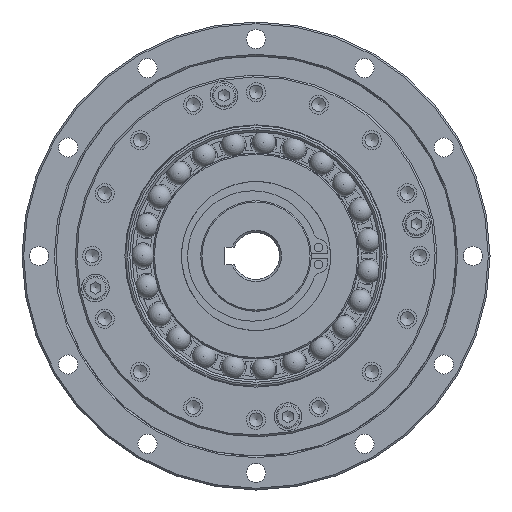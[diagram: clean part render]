
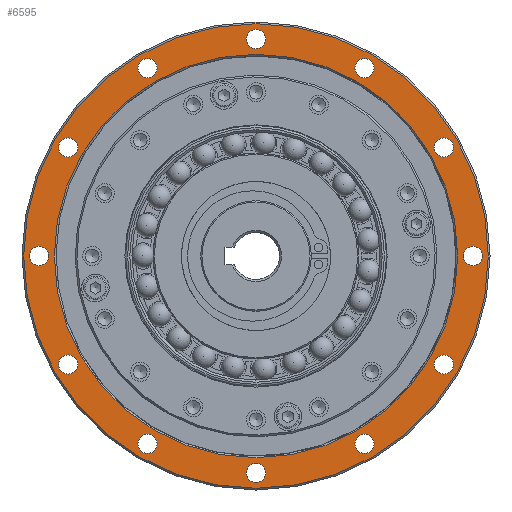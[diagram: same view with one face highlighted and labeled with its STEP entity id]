
A CAD part, left-side view. The second image highlights one B-rep face of the part: STEP entity #6595.
In plain terms, the highlighted planar face has unit normal (-1, 0, 0).
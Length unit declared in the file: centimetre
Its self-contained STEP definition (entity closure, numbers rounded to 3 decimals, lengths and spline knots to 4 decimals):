
#1205=FACE_BOUND('',#2176,.T.);
#1206=FACE_BOUND('',#2177,.T.);
#1207=FACE_BOUND('',#2178,.T.);
#1208=FACE_BOUND('',#2179,.T.);
#1209=FACE_BOUND('',#2180,.T.);
#1210=FACE_BOUND('',#2181,.T.);
#1211=FACE_BOUND('',#2182,.T.);
#1212=FACE_BOUND('',#2183,.T.);
#1213=FACE_BOUND('',#2184,.T.);
#1214=FACE_BOUND('',#2185,.T.);
#1215=FACE_BOUND('',#2186,.T.);
#1216=FACE_BOUND('',#2187,.T.);
#1217=FACE_BOUND('',#2188,.T.);
#1610=FACE_OUTER_BOUND('',#2175,.T.);
#2175=EDGE_LOOP('',(#5743));
#2176=EDGE_LOOP('',(#5744));
#2177=EDGE_LOOP('',(#5745));
#2178=EDGE_LOOP('',(#5746));
#2179=EDGE_LOOP('',(#5747));
#2180=EDGE_LOOP('',(#5748));
#2181=EDGE_LOOP('',(#5749));
#2182=EDGE_LOOP('',(#5750));
#2183=EDGE_LOOP('',(#5751));
#2184=EDGE_LOOP('',(#5752));
#2185=EDGE_LOOP('',(#5753));
#2186=EDGE_LOOP('',(#5754));
#2187=EDGE_LOOP('',(#5755));
#2188=EDGE_LOOP('',(#5756));
#2894=CIRCLE('',#7512,5.46);
#2895=CIRCLE('',#7514,4.74);
#2896=CIRCLE('',#7515,0.225);
#2897=CIRCLE('',#7516,0.225);
#2898=CIRCLE('',#7517,0.225);
#2899=CIRCLE('',#7518,0.225);
#2900=CIRCLE('',#7519,0.225);
#2901=CIRCLE('',#7520,0.225);
#2902=CIRCLE('',#7521,0.225);
#2903=CIRCLE('',#7522,0.225);
#2904=CIRCLE('',#7523,0.225);
#2905=CIRCLE('',#7524,0.225);
#2906=CIRCLE('',#7525,0.225);
#2907=CIRCLE('',#7526,0.225);
#3425=VERTEX_POINT('',#11432);
#3426=VERTEX_POINT('',#11435);
#3427=VERTEX_POINT('',#11437);
#3428=VERTEX_POINT('',#11439);
#3429=VERTEX_POINT('',#11441);
#3430=VERTEX_POINT('',#11443);
#3431=VERTEX_POINT('',#11445);
#3432=VERTEX_POINT('',#11447);
#3433=VERTEX_POINT('',#11449);
#3434=VERTEX_POINT('',#11451);
#3435=VERTEX_POINT('',#11453);
#3436=VERTEX_POINT('',#11455);
#3437=VERTEX_POINT('',#11457);
#3438=VERTEX_POINT('',#11459);
#4220=EDGE_CURVE('',#3425,#3425,#2894,.T.);
#4221=EDGE_CURVE('',#3426,#3426,#2895,.T.);
#4222=EDGE_CURVE('',#3427,#3427,#2896,.T.);
#4223=EDGE_CURVE('',#3428,#3428,#2897,.T.);
#4224=EDGE_CURVE('',#3429,#3429,#2898,.T.);
#4225=EDGE_CURVE('',#3430,#3430,#2899,.T.);
#4226=EDGE_CURVE('',#3431,#3431,#2900,.T.);
#4227=EDGE_CURVE('',#3432,#3432,#2901,.T.);
#4228=EDGE_CURVE('',#3433,#3433,#2902,.T.);
#4229=EDGE_CURVE('',#3434,#3434,#2903,.T.);
#4230=EDGE_CURVE('',#3435,#3435,#2904,.T.);
#4231=EDGE_CURVE('',#3436,#3436,#2905,.T.);
#4232=EDGE_CURVE('',#3437,#3437,#2906,.T.);
#4233=EDGE_CURVE('',#3438,#3438,#2907,.T.);
#5743=ORIENTED_EDGE('',*,*,#4220,.F.);
#5744=ORIENTED_EDGE('',*,*,#4221,.F.);
#5745=ORIENTED_EDGE('',*,*,#4222,.T.);
#5746=ORIENTED_EDGE('',*,*,#4223,.T.);
#5747=ORIENTED_EDGE('',*,*,#4224,.T.);
#5748=ORIENTED_EDGE('',*,*,#4225,.T.);
#5749=ORIENTED_EDGE('',*,*,#4226,.T.);
#5750=ORIENTED_EDGE('',*,*,#4227,.T.);
#5751=ORIENTED_EDGE('',*,*,#4228,.T.);
#5752=ORIENTED_EDGE('',*,*,#4229,.T.);
#5753=ORIENTED_EDGE('',*,*,#4230,.T.);
#5754=ORIENTED_EDGE('',*,*,#4231,.T.);
#5755=ORIENTED_EDGE('',*,*,#4232,.T.);
#5756=ORIENTED_EDGE('',*,*,#4233,.T.);
#6241=PLANE('',#7513);
#6595=ADVANCED_FACE('',(#1610,#1205,#1206,#1207,#1208,#1209,#1210,#1211,
#1212,#1213,#1214,#1215,#1216,#1217),#6241,.T.);
#7512=AXIS2_PLACEMENT_3D('',#11433,#9445,#9446);
#7513=AXIS2_PLACEMENT_3D('',#11434,#9447,#9448);
#7514=AXIS2_PLACEMENT_3D('',#11436,#9449,#9450);
#7515=AXIS2_PLACEMENT_3D('',#11438,#9451,#9452);
#7516=AXIS2_PLACEMENT_3D('',#11440,#9453,#9454);
#7517=AXIS2_PLACEMENT_3D('',#11442,#9455,#9456);
#7518=AXIS2_PLACEMENT_3D('',#11444,#9457,#9458);
#7519=AXIS2_PLACEMENT_3D('',#11446,#9459,#9460);
#7520=AXIS2_PLACEMENT_3D('',#11448,#9461,#9462);
#7521=AXIS2_PLACEMENT_3D('',#11450,#9463,#9464);
#7522=AXIS2_PLACEMENT_3D('',#11452,#9465,#9466);
#7523=AXIS2_PLACEMENT_3D('',#11454,#9467,#9468);
#7524=AXIS2_PLACEMENT_3D('',#11456,#9469,#9470);
#7525=AXIS2_PLACEMENT_3D('',#11458,#9471,#9472);
#7526=AXIS2_PLACEMENT_3D('',#11460,#9473,#9474);
#9445=DIRECTION('center_axis',(1.,0.,0.));
#9446=DIRECTION('ref_axis',(0.,0.,-1.));
#9447=DIRECTION('center_axis',(-1.,0.,0.));
#9448=DIRECTION('ref_axis',(0.,0.,1.));
#9449=DIRECTION('center_axis',(-1.,0.,0.));
#9450=DIRECTION('ref_axis',(0.,0.,-1.));
#9451=DIRECTION('center_axis',(1.,0.,0.));
#9452=DIRECTION('ref_axis',(0.,0.,-1.));
#9453=DIRECTION('center_axis',(1.,0.,0.));
#9454=DIRECTION('ref_axis',(0.,0.,-1.));
#9455=DIRECTION('center_axis',(1.,0.,0.));
#9456=DIRECTION('ref_axis',(0.,0.,-1.));
#9457=DIRECTION('center_axis',(1.,0.,0.));
#9458=DIRECTION('ref_axis',(0.,0.,-1.));
#9459=DIRECTION('center_axis',(1.,0.,0.));
#9460=DIRECTION('ref_axis',(0.,0.,-1.));
#9461=DIRECTION('center_axis',(1.,0.,0.));
#9462=DIRECTION('ref_axis',(0.,0.,-1.));
#9463=DIRECTION('center_axis',(1.,0.,0.));
#9464=DIRECTION('ref_axis',(0.,0.,-1.));
#9465=DIRECTION('center_axis',(1.,0.,0.));
#9466=DIRECTION('ref_axis',(0.,0.,-1.));
#9467=DIRECTION('center_axis',(1.,0.,0.));
#9468=DIRECTION('ref_axis',(0.,0.,-1.));
#9469=DIRECTION('center_axis',(1.,0.,0.));
#9470=DIRECTION('ref_axis',(0.,0.,-1.));
#9471=DIRECTION('center_axis',(1.,0.,0.));
#9472=DIRECTION('ref_axis',(0.,0.,-1.));
#9473=DIRECTION('center_axis',(1.,0.,0.));
#9474=DIRECTION('ref_axis',(0.,0.,-1.));
#11432=CARTESIAN_POINT('',(-1.87,0.,5.46));
#11433=CARTESIAN_POINT('Origin',(-1.87,0.,0.));
#11434=CARTESIAN_POINT('Origin',(-1.87,0.,4.7));
#11435=CARTESIAN_POINT('',(-1.87,0.,4.74));
#11436=CARTESIAN_POINT('Origin',(-1.87,0.,0.));
#11437=CARTESIAN_POINT('',(-1.87,-4.4167,-2.325));
#11438=CARTESIAN_POINT('Origin',(-1.87,-4.4167,-2.55));
#11439=CARTESIAN_POINT('',(-1.87,-4.4167,2.775));
#11440=CARTESIAN_POINT('Origin',(-1.87,-4.4167,2.55));
#11441=CARTESIAN_POINT('',(-1.87,0.,5.325));
#11442=CARTESIAN_POINT('Origin',(-1.87,0.,5.1));
#11443=CARTESIAN_POINT('',(-1.87,4.4167,2.775));
#11444=CARTESIAN_POINT('Origin',(-1.87,4.4167,2.55));
#11445=CARTESIAN_POINT('',(-1.87,4.4167,-2.325));
#11446=CARTESIAN_POINT('Origin',(-1.87,4.4167,-2.55));
#11447=CARTESIAN_POINT('',(-1.87,0.,-4.875));
#11448=CARTESIAN_POINT('Origin',(-1.87,0.,-5.1));
#11449=CARTESIAN_POINT('',(-1.87,2.55,-4.1917));
#11450=CARTESIAN_POINT('Origin',(-1.87,2.55,-4.4167));
#11451=CARTESIAN_POINT('',(-1.87,5.1,0.225));
#11452=CARTESIAN_POINT('Origin',(-1.87,5.1,0.));
#11453=CARTESIAN_POINT('',(-1.87,2.55,4.6417));
#11454=CARTESIAN_POINT('Origin',(-1.87,2.55,4.4167));
#11455=CARTESIAN_POINT('',(-1.87,-2.55,4.6417));
#11456=CARTESIAN_POINT('Origin',(-1.87,-2.55,4.4167));
#11457=CARTESIAN_POINT('',(-1.87,-5.1,0.225));
#11458=CARTESIAN_POINT('Origin',(-1.87,-5.1,0.));
#11459=CARTESIAN_POINT('',(-1.87,-2.55,-4.1917));
#11460=CARTESIAN_POINT('Origin',(-1.87,-2.55,-4.4167));
